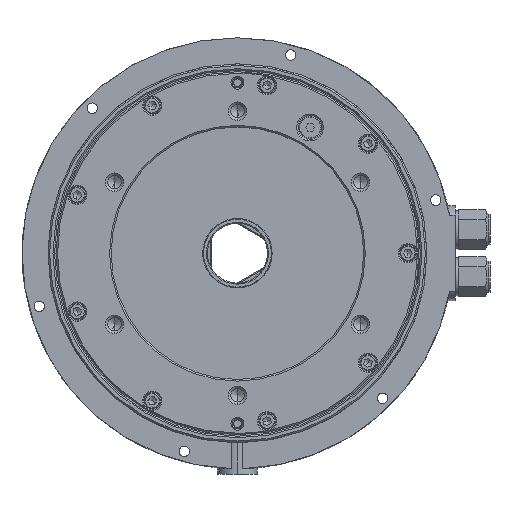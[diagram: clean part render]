
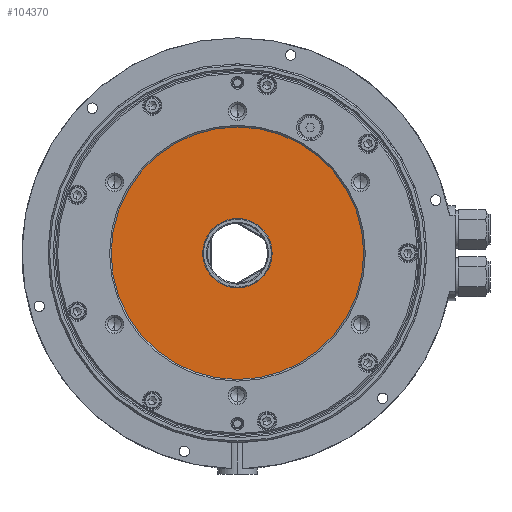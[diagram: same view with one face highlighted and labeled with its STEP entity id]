
A CAD part, left-side view. The second image highlights one B-rep face of the part: STEP entity #104370.
In plain terms, the highlighted planar face has unit normal (-1, 0, 0).
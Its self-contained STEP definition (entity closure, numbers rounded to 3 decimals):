
#311 = CARTESIAN_POINT ( 'NONE',  ( -7.5, 0., 0. ) ) ;
#618 = CARTESIAN_POINT ( 'NONE',  ( -7.5, 0., 0. ) ) ;
#1004 = EDGE_LOOP ( 'NONE', ( #107906, #78843 ) ) ;
#7067 = CIRCLE ( 'NONE', #116704, 22. ) ;
#7293 = CARTESIAN_POINT ( 'NONE',  ( -7.5, 0., -22. ) ) ;
#8492 = VERTEX_POINT ( 'NONE', #7293 ) ;
#11829 = EDGE_CURVE ( 'NONE', #98089, #14867, #39456, .T. ) ;
#14401 = AXIS2_PLACEMENT_3D ( 'NONE', #311, #20434, #30851 ) ;
#14867 = VERTEX_POINT ( 'NONE', #113242 ) ;
#20434 = DIRECTION ( 'NONE',  ( -1., 0., 0. ) ) ;
#30851 = DIRECTION ( 'NONE',  ( 0., 0., 1. ) ) ;
#34806 = CARTESIAN_POINT ( 'NONE',  ( -7.5, 0., 0. ) ) ;
#38361 = DIRECTION ( 'NONE',  ( -1., 0., 0. ) ) ;
#39309 = EDGE_CURVE ( 'NONE', #14867, #98089, #80803, .T. ) ;
#39456 = CIRCLE ( 'NONE', #47790, 80. ) ;
#40564 = FACE_BOUND ( 'NONE', #1004, .T. ) ;
#41695 = EDGE_CURVE ( 'NONE', #105218, #8492, #62454, .T. ) ;
#44536 = DIRECTION ( 'NONE',  ( 0., 0., 1. ) ) ;
#46948 = CARTESIAN_POINT ( 'NONE',  ( -7.5, 0., -80. ) ) ;
#47653 = CARTESIAN_POINT ( 'NONE',  ( -7.5, 0., 0. ) ) ;
#47790 = AXIS2_PLACEMENT_3D ( 'NONE', #47653, #67130, #76215 ) ;
#54477 = EDGE_CURVE ( 'NONE', #8492, #105218, #7067, .T. ) ;
#59425 = DIRECTION ( 'NONE',  ( 1., 0., 0. ) ) ;
#61345 = DIRECTION ( 'NONE',  ( 0., 0., -1. ) ) ;
#62454 = CIRCLE ( 'NONE', #76994, 22. ) ;
#66175 = AXIS2_PLACEMENT_3D ( 'NONE', #99624, #59425, #61345 ) ;
#67130 = DIRECTION ( 'NONE',  ( -1., 0., 0. ) ) ;
#67576 = CARTESIAN_POINT ( 'NONE',  ( -7.5, 0., 22. ) ) ;
#76215 = DIRECTION ( 'NONE',  ( 0., 0., 1. ) ) ;
#76994 = AXIS2_PLACEMENT_3D ( 'NONE', #618, #38361, #119451 ) ;
#78843 = ORIENTED_EDGE ( 'NONE', *, *, #54477, .F. ) ;
#80803 = CIRCLE ( 'NONE', #14401, 80. ) ;
#98089 = VERTEX_POINT ( 'NONE', #46948 ) ;
#99624 = CARTESIAN_POINT ( 'NONE',  ( -7.5, 22., 0. ) ) ;
#104370 = ADVANCED_FACE ( 'NONE', ( #40564, #128253 ), #120391, .F. ) ;
#104877 = DIRECTION ( 'NONE',  ( -1., 0., 0. ) ) ;
#105218 = VERTEX_POINT ( 'NONE', #67576 ) ;
#106561 = ORIENTED_EDGE ( 'NONE', *, *, #11829, .T. ) ;
#107906 = ORIENTED_EDGE ( 'NONE', *, *, #41695, .F. ) ;
#113242 = CARTESIAN_POINT ( 'NONE',  ( -7.5, 0., 80. ) ) ;
#116704 = AXIS2_PLACEMENT_3D ( 'NONE', #34806, #104877, #44536 ) ;
#119451 = DIRECTION ( 'NONE',  ( 0., 0., 1. ) ) ;
#120391 = PLANE ( 'NONE',  #66175 ) ;
#121277 = ORIENTED_EDGE ( 'NONE', *, *, #39309, .T. ) ;
#128253 = FACE_OUTER_BOUND ( 'NONE', #128500, .T. ) ;
#128500 = EDGE_LOOP ( 'NONE', ( #121277, #106561 ) ) ;
